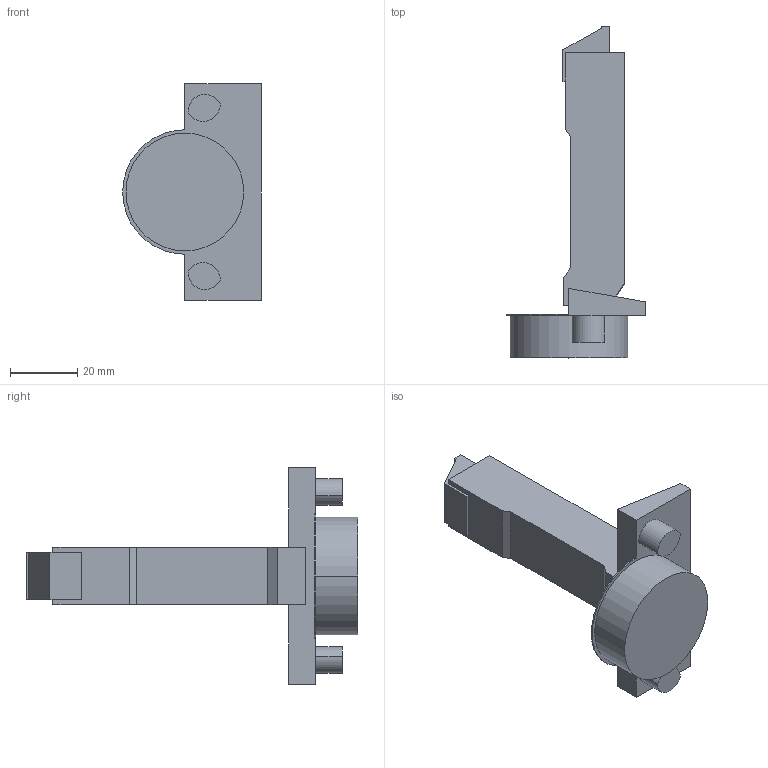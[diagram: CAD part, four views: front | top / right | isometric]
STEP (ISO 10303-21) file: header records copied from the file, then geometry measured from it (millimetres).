
FILE_DESCRIPTION (( 'STEP AP214' ), '1' );
FILE_NAME ('Scharnier TT Impresso 110° HS_BB, K03.step', '2018-09-12T09:11:29', ( '' ), ( '' ), 'SwSTEP 2.0', 'SolidWorks 2017', '' );
FILE_SCHEMA (( 'AUTOMOTIVE_DESIGN' ));
Length unit declared in the file: millimetre
Products named in the file (1): Scharnier TT Impresso 110° HS_BB, K03
Bounding box: 41.25 x 98.7 x 64.5 mm (x, y, z)
Volume: 43245.8 mm3; surface area: 12234.6 mm2
Topology: 1 solids, 1 shells, 50 faces, 126 edges, 84 vertices
Faces by surface type: plane 35, cylinder 15
Entity records: 1534 total; most frequent: CARTESIAN_POINT 261, DIRECTION 258, ORIENTED_EDGE 252, EDGE_CURVE 126, LINE 96, VECTOR 96, VERTEX_POINT 84, AXIS2_PLACEMENT_3D 81
